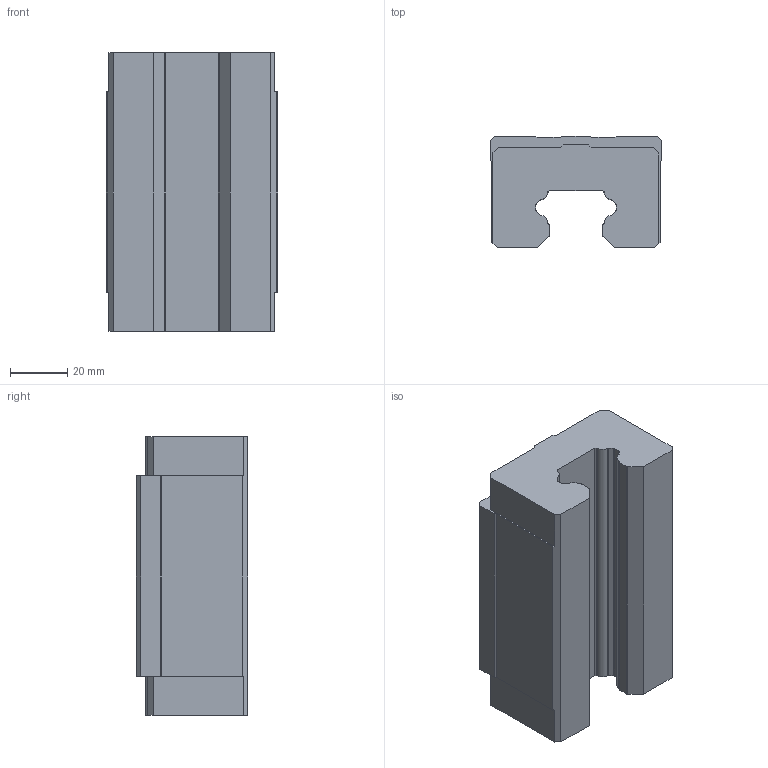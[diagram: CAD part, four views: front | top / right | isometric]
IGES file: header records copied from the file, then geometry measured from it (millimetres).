
Start section: SolidWorks IGES file using analytic representation for surfaces
Global section: file name: D:\SOLIDWORKS PROEKTI\freelance cnc cat\CETVRTA SERIJA\HGH\HGH30CA.IGS; native system: SolidWorks 2016; preprocessor: SolidWorks 2016; author: User; date: 170813.075536; units: millimetre
Bounding box: 60 x 39 x 97.4 mm (x, y, z)
Surface area: 27580.6 mm2 (no closed solid volume)
Topology: 0 solids, 0 shells, 174 faces, 2335 edges, 2818 vertices
Faces by surface type: bspline 146, revolution 28
